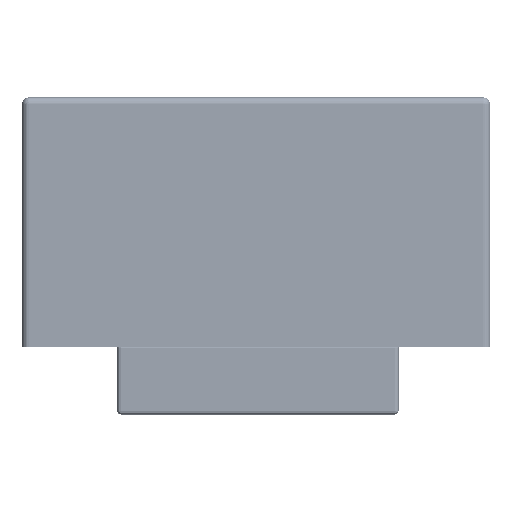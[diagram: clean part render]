
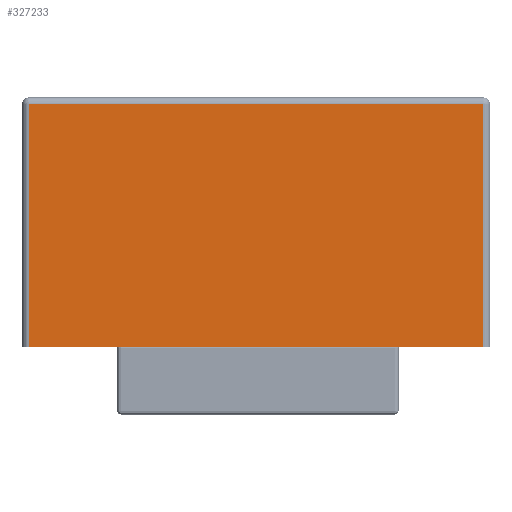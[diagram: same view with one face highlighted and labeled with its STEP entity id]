
A CAD part, left-side view. The second image highlights one B-rep face of the part: STEP entity #327233.
In plain terms, the highlighted planar face has unit normal (-1, 0, 0).
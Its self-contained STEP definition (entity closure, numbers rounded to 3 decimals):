
#65385=PLANE('',#351612);
#68196=LINE('',#377691,#73805);
#68199=LINE('',#377695,#73808);
#68205=LINE('',#377710,#73814);
#68208=LINE('',#377715,#73817);
#73805=VECTOR('',#361075,10.);
#73808=VECTOR('',#361080,10.);
#73814=VECTOR('',#361096,10.);
#73817=VECTOR('',#361103,10.);
#78848=FACE_OUTER_BOUND('',#101734,.T.);
#101734=EDGE_LOOP('',(#211479,#211480,#211481,#211482));
#127091=VERTEX_POINT('',#377651);
#127096=VERTEX_POINT('',#377663);
#127104=VERTEX_POINT('',#377689);
#127107=VERTEX_POINT('',#377706);
#156120=EDGE_CURVE('',#127104,#127096,#68196,.T.);
#156123=EDGE_CURVE('',#127096,#127091,#68199,.T.);
#156131=EDGE_CURVE('',#127091,#127107,#68205,.T.);
#156134=EDGE_CURVE('',#127107,#127104,#68208,.T.);
#211479=ORIENTED_EDGE('',*,*,#156120,.F.);
#211480=ORIENTED_EDGE('',*,*,#156134,.F.);
#211481=ORIENTED_EDGE('',*,*,#156131,.F.);
#211482=ORIENTED_EDGE('',*,*,#156123,.F.);
#327233=ADVANCED_FACE('',(#78848),#65385,.T.);
#351612=AXIS2_PLACEMENT_3D('',#385785,#361976,#361977);
#361075=DIRECTION('',(0.,0.,1.));
#361080=DIRECTION('',(0.,-1.,0.));
#361096=DIRECTION('',(0.,0.,-1.));
#361103=DIRECTION('',(0.,1.,0.));
#361976=DIRECTION('center_axis',(-1.,0.,0.));
#361977=DIRECTION('ref_axis',(0.,1.,0.));
#377651=CARTESIAN_POINT('',(-4.45,-3.955,5.75));
#377663=CARTESIAN_POINT('',(-4.45,8.955,5.75));
#377689=CARTESIAN_POINT('',(-4.45,8.955,-1.15));
#377691=CARTESIAN_POINT('',(-4.45,8.955,5.95));
#377695=CARTESIAN_POINT('',(-4.45,-2.078,5.75));
#377706=CARTESIAN_POINT('',(-4.45,-3.955,-1.15));
#377710=CARTESIAN_POINT('',(-4.45,-3.955,5.95));
#377715=CARTESIAN_POINT('',(-4.45,9.155,-1.15));
#385785=CARTESIAN_POINT('Origin',(-4.45,-4.155,5.95));
